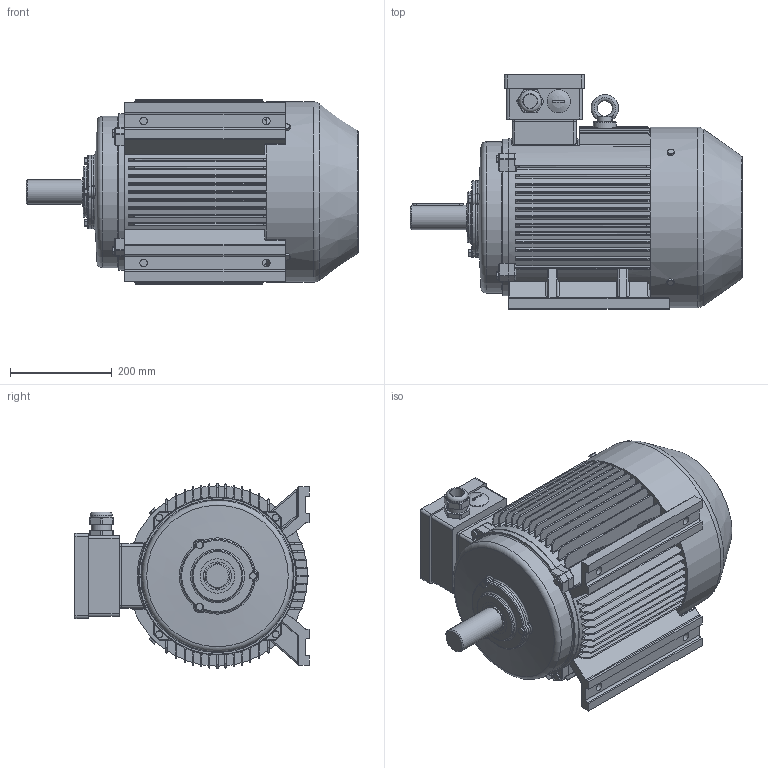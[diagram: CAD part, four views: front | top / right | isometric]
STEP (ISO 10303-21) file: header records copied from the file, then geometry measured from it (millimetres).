
FILE_DESCRIPTION(/* description */ ('01-IP55-Cast Iron-IE4-180M B3-2-4'),/* implementation_level */ '2;1');
FILE_NAME(/* name */ 'D:\02 - Onedrive\OneDrive\01 - Werkbestanden\121 - OMEC\1408 - MOTOREN CAD BIBLIOTHEEK\1408 - Gereed\OMT1-IE4\01-IP55-Cast Iron-IE4-180M B3-2-4.stp',/* time_stamp */ '2017-10-13T10:45:54+02:00',/* author */ ('freek'),/* organization */ (''),/* preprocessor_version */ 'ST-DEVELOPER v16.1',/* originating_system */ 'Autodesk Inventor 2016',/* authorisation */ '');
FILE_SCHEMA (('AUTOMOTIVE_DESIGN { 1 0 10303 214 3 1 1 }'));
Length unit declared in the file: millimetre
Products named in the file (1): 1408-726
Bounding box: 652.1 x 460 x 363.05 mm (x, y, z)
Volume: 45805350.5 mm3; surface area: 1815736.5 mm2
Topology: 4 solids, 8 shells, 2297 faces, 5723 edges, 3735 vertices
Faces by surface type: plane 1681, cylinder 370, cone 167, bspline 31, torus 26, sphere 22
Full cylindrical faces by diameter (mm): 7.323 x11, 8 x16, 10 x6, 11.4 x11, 15 x4, 28 x1, 40 x1, 43 x1, 45 x1, 46 x1, 48 x1, 55 x1, 67.6 x1, 67.8 x1, 68 x1, 100 x1, 235 x1, 297 x1, 308 x1, 354.5 x1
Entity records: 73123 total; most frequent: CARTESIAN_POINT 17000, ORIENTED_EDGE 11216, DIRECTION 10544, EDGE_CURVE 5600, LINE 4170, VECTOR 4170, VERTEX_POINT 3708, AXIS2_PLACEMENT_3D 3187
